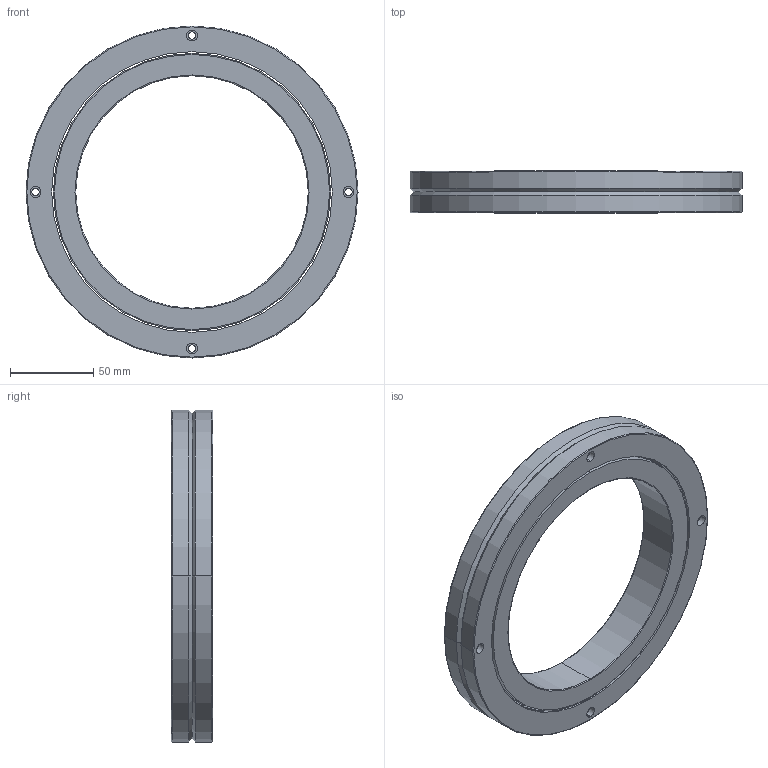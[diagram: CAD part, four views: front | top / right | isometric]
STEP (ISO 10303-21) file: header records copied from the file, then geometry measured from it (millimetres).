
FILE_DESCRIPTION((''),'2;1');
FILE_NAME('RB14025','2015-07-18T',('Administrator'),(''),'PRO/ENGINEER BY PARAMETRIC TECHNOLOGY CORPORATION, 2010180','PRO/ENGINEER BY PARAMETRIC TECHNOLOGY CORPORATION, 2010180','');
FILE_SCHEMA(('AUTOMOTIVE_DESIGN_CC2 { 1 2 10303 214 -1 1 5 2 }'));
Length unit declared in the file: millimetre
Products named in the file (1): RB14025
Bounding box: 200 x 25 x 200 mm (x, y, z)
Volume: 329539.9 mm3; surface area: 98343.7 mm2
Topology: 2 solids, 2 shells, 88 faces, 184 edges, 114 vertices
Faces by surface type: cylinder 50, plane 18, cone 12, torus 8
Entity records: 2497 total; most frequent: DIRECTION 482, CARTESIAN_POINT 386, ORIENTED_EDGE 368, AXIS2_PLACEMENT_3D 210, EDGE_CURVE 184, CIRCLE 122, VERTEX_POINT 114, EDGE_LOOP 114
